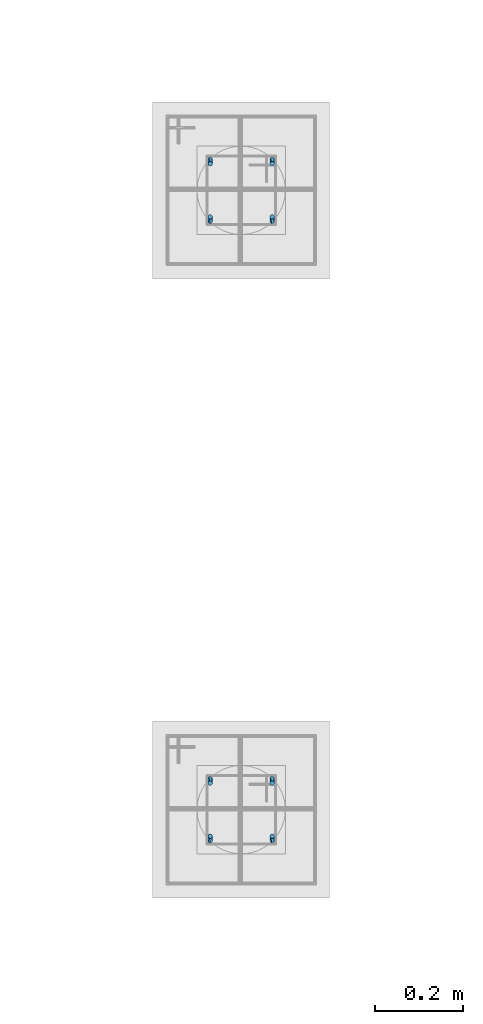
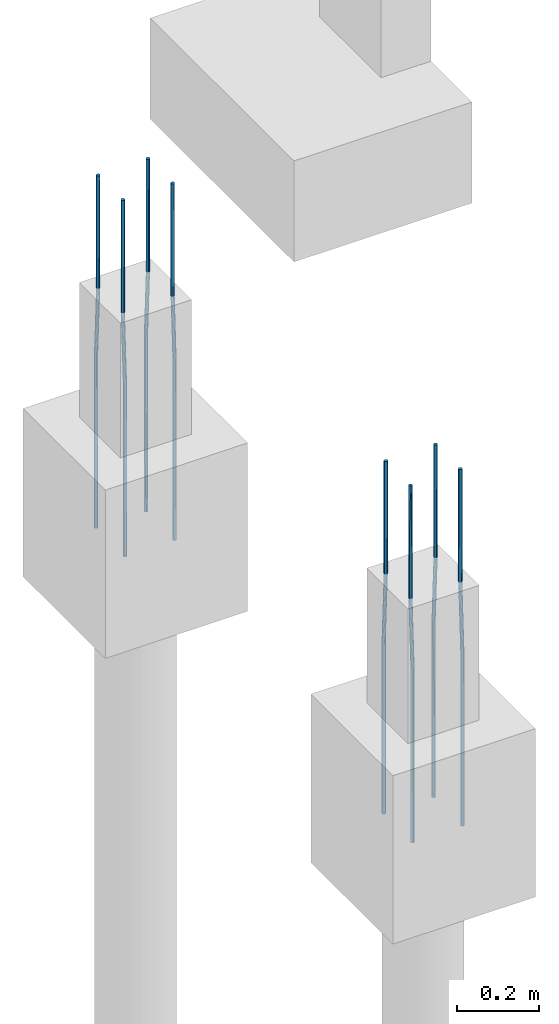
# One storey, part 62 of 119: 8 reinforcing bars.
"""IFC4 building model written with IfcOpenShell, lengths in centimetres."""

from ifc_helpers import new_model, entity, si_unit, derived_unit, frame, origin_with_axes, place, context, project, spatial, element, save


model = new_model("IFC4")

# Units and contexts
model_context = context("Model", 3, precision=1e-05, world=origin_with_axes(), identifier="Body")
ifc_project = project(units=[si_unit("LENGTHUNIT", "METRE", prefix="CENTI"), si_unit("VOLUMEUNIT", "CUBIC_METRE"), si_unit("AREAUNIT", "SQUARE_METRE"), si_unit("POWERUNIT", "WATT"), si_unit("LUMINOUSFLUXUNIT", "LUMEN"), si_unit("ELECTRICCURRENTUNIT", "AMPERE"), si_unit("PRESSUREUNIT", "PASCAL", prefix="KILO"), si_unit("MASSUNIT", "GRAM", prefix="KILO"), si_unit("PLANEANGLEUNIT", "RADIAN"), derived_unit("VOLUMETRICFLOWRATEUNIT", [(si_unit("LENGTHUNIT", "METRE"), 3), (si_unit("TIMEUNIT", "SECOND"), -1)])], contexts=[model_context])

# Site, building, storey
site_placement = place(None, frame((-4000.0, 0.0, 0.0), z_axis=(0.0, 0.0, 1.0), x_axis=(1.0, 0.0, 0.0)))
site = spatial("IfcSite", under=ifc_project, at=site_placement, Name="PADRÃO")
building_placement = place(site_placement, frame((0.0, 0.0, -14.0)))
building = spatial("IfcBuilding", under=site, at=building_placement, Name="CRECHE PRÉ-ESCOLA TIPO 2")
storey_placement = place(building_placement, origin_with_axes())
storey = spatial("IfcBuildingStorey", under=building, at=storey_placement, Name="FUNDAÇÃO", CompositionType="ELEMENT", Elevation=-14.0)

# Reinforcing bars
reinforcing_bar_1_placement = place(storey_placement, frame((3852.84, 3411.52, 33.3573001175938), z_axis=(0.0, 0.0, 1.0), x_axis=(1.0, 0.0, 0.0)))
element("IfcReinforcingBar", 1, at=reinforcing_bar_1_placement, inside=storey, Name="PM1 - Longitudinal", BarLength=0.0, CrossSectionArea=7.853981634e-05, NominalDiameter=1.0, PredefinedType="MAIN", context=model_context, shape_type="AdvancedSweptSolid", body=[
    entity("IfcSweptDiskSolid", entity("IfcCompositeCurve", [entity("IfcCompositeCurveSegment", "CONTINUOUS", True, entity("IfcPolyline", [entity("IfcCartesianPoint", [0.0, 0.5, -105.357300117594]), entity("IfcCartesianPoint", [0.0, 0.5, -53.3573001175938])])), entity("IfcCompositeCurveSegment", "CONTINUOUS", True, entity("IfcPolyline", [entity("IfcCartesianPoint", [0.0, 0.5, -53.3573001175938]), entity("IfcCartesianPoint", [0.0, -0.5, -33.3573001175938])])), entity("IfcCompositeCurveSegment", "CONTINUOUS", True, entity("IfcPolyline", [entity("IfcCartesianPoint", [0.0, -0.5, -33.3573001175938]), entity("IfcCartesianPoint", [0.0, -0.5, 0.0])]))], False), 0.5),
])
for number, where, z_axis, x_axis, name in (
    (2, (3852.84, 3398.52, 33.3573001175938), (0.0, 0.0, 1.0), (1.0, 0.0, 0.0), "PM1 - Longitudinal"),
    (3, (3838.84, 3398.52, 33.3573001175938), (0.0, 0.0, 1.0), (1.0, 0.0, 0.0), "PM1 - Longitudinal"),
):
    element("IfcReinforcingBar", number, at=place(storey_placement, frame(where, z_axis=z_axis, x_axis=x_axis)), inside=storey, Name=name, BarLength=0.0, CrossSectionArea=7.853981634e-05, NominalDiameter=1.0, PredefinedType="MAIN", context=model_context, shape_type="AdvancedSweptSolid", body=[
        entity("IfcSweptDiskSolid", entity("IfcCompositeCurve", [entity("IfcCompositeCurveSegment", "CONTINUOUS", True, entity("IfcPolyline", [entity("IfcCartesianPoint", [0.0, -0.5, -105.357300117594]), entity("IfcCartesianPoint", [0.0, -0.5, -53.3573001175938])])), entity("IfcCompositeCurveSegment", "CONTINUOUS", True, entity("IfcPolyline", [entity("IfcCartesianPoint", [0.0, -0.5, -53.3573001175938]), entity("IfcCartesianPoint", [0.0, 0.5, -33.3573001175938])])), entity("IfcCompositeCurveSegment", "CONTINUOUS", True, entity("IfcPolyline", [entity("IfcCartesianPoint", [0.0, 0.5, -33.3573001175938]), entity("IfcCartesianPoint", [0.0, 0.5, 0.0])]))], False), 0.5),
    ])
reinforcing_bar_2_placement = place(storey_placement, frame((3838.84, 3411.52, 33.3573001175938), z_axis=(0.0, 0.0, 1.0), x_axis=(1.0, 0.0, 0.0)))
element("IfcReinforcingBar", 4, at=reinforcing_bar_2_placement, inside=storey, Name="PM1 - Longitudinal", BarLength=0.0, CrossSectionArea=7.853981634e-05, NominalDiameter=1.0, PredefinedType="MAIN", context=model_context, shape_type="AdvancedSweptSolid", body=[
    entity("IfcSweptDiskSolid", entity("IfcCompositeCurve", [entity("IfcCompositeCurveSegment", "CONTINUOUS", True, entity("IfcPolyline", [entity("IfcCartesianPoint", [0.0, 0.5, -105.357300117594]), entity("IfcCartesianPoint", [0.0, 0.5, -53.3573001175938])])), entity("IfcCompositeCurveSegment", "CONTINUOUS", True, entity("IfcPolyline", [entity("IfcCartesianPoint", [0.0, 0.5, -53.3573001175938]), entity("IfcCartesianPoint", [0.0, -0.5, -33.3573001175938])])), entity("IfcCompositeCurveSegment", "CONTINUOUS", True, entity("IfcPolyline", [entity("IfcCartesianPoint", [0.0, -0.5, -33.3573001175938]), entity("IfcCartesianPoint", [0.0, -0.5, 0.0])]))], False), 0.5),
])
reinforcing_bar_3_placement = place(storey_placement, frame((3852.84, 3258.52, 33.3573001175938), z_axis=(0.0, 0.0, 1.0), x_axis=(1.0, 0.0, 0.0)))
element("IfcReinforcingBar", 5, at=reinforcing_bar_3_placement, inside=storey, Name="PM2 - Longitudinal", BarLength=0.0, CrossSectionArea=7.853981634e-05, NominalDiameter=1.0, PredefinedType="MAIN", context=model_context, shape_type="AdvancedSweptSolid", body=[
    entity("IfcSweptDiskSolid", entity("IfcCompositeCurve", [entity("IfcCompositeCurveSegment", "CONTINUOUS", True, entity("IfcPolyline", [entity("IfcCartesianPoint", [0.0, -0.5, -105.357300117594]), entity("IfcCartesianPoint", [0.0, -0.5, -53.3573001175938])])), entity("IfcCompositeCurveSegment", "CONTINUOUS", True, entity("IfcPolyline", [entity("IfcCartesianPoint", [0.0, -0.5, -53.3573001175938]), entity("IfcCartesianPoint", [0.0, 0.5, -33.3573001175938])])), entity("IfcCompositeCurveSegment", "CONTINUOUS", True, entity("IfcPolyline", [entity("IfcCartesianPoint", [0.0, 0.5, -33.3573001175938]), entity("IfcCartesianPoint", [0.0, 0.5, 0.0])]))], False), 0.5),
])
reinforcing_bar_4_placement = place(storey_placement, frame((3852.84, 3271.52, 33.3573001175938), z_axis=(0.0, 0.0, 1.0), x_axis=(1.0, 0.0, 0.0)))
element("IfcReinforcingBar", 6, at=reinforcing_bar_4_placement, inside=storey, Name="PM2 - Longitudinal", BarLength=0.0, CrossSectionArea=7.853981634e-05, NominalDiameter=1.0, PredefinedType="MAIN", context=model_context, shape_type="AdvancedSweptSolid", body=[
    entity("IfcSweptDiskSolid", entity("IfcCompositeCurve", [entity("IfcCompositeCurveSegment", "CONTINUOUS", True, entity("IfcPolyline", [entity("IfcCartesianPoint", [0.0, 0.5, -105.357300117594]), entity("IfcCartesianPoint", [0.0, 0.5, -53.3573001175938])])), entity("IfcCompositeCurveSegment", "CONTINUOUS", True, entity("IfcPolyline", [entity("IfcCartesianPoint", [0.0, 0.5, -53.3573001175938]), entity("IfcCartesianPoint", [0.0, -0.5, -33.3573001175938])])), entity("IfcCompositeCurveSegment", "CONTINUOUS", True, entity("IfcPolyline", [entity("IfcCartesianPoint", [0.0, -0.5, -33.3573001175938]), entity("IfcCartesianPoint", [0.0, -0.5, 0.0])]))], False), 0.5),
])
reinforcing_bar_5_placement = place(storey_placement, frame((3838.84, 3258.52, 33.3573001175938), z_axis=(0.0, 0.0, 1.0), x_axis=(1.0, 0.0, 0.0)))
element("IfcReinforcingBar", 7, at=reinforcing_bar_5_placement, inside=storey, Name="PM2 - Longitudinal", BarLength=0.0, CrossSectionArea=7.853981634e-05, NominalDiameter=1.0, PredefinedType="MAIN", context=model_context, shape_type="AdvancedSweptSolid", body=[
    entity("IfcSweptDiskSolid", entity("IfcCompositeCurve", [entity("IfcCompositeCurveSegment", "CONTINUOUS", True, entity("IfcPolyline", [entity("IfcCartesianPoint", [0.0, -0.5, -105.357300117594]), entity("IfcCartesianPoint", [0.0, -0.5, -53.3573001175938])])), entity("IfcCompositeCurveSegment", "CONTINUOUS", True, entity("IfcPolyline", [entity("IfcCartesianPoint", [0.0, -0.5, -53.3573001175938]), entity("IfcCartesianPoint", [0.0, 0.5, -33.3573001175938])])), entity("IfcCompositeCurveSegment", "CONTINUOUS", True, entity("IfcPolyline", [entity("IfcCartesianPoint", [0.0, 0.5, -33.3573001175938]), entity("IfcCartesianPoint", [0.0, 0.5, 0.0])]))], False), 0.5),
])
reinforcing_bar_6_placement = place(storey_placement, frame((3838.84, 3271.52, 33.3573001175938), z_axis=(0.0, 0.0, 1.0), x_axis=(1.0, 0.0, 0.0)))
element("IfcReinforcingBar", 8, at=reinforcing_bar_6_placement, inside=storey, Name="PM2 - Longitudinal", BarLength=0.0, CrossSectionArea=7.853981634e-05, NominalDiameter=1.0, PredefinedType="MAIN", context=model_context, shape_type="AdvancedSweptSolid", body=[
    entity("IfcSweptDiskSolid", entity("IfcCompositeCurve", [entity("IfcCompositeCurveSegment", "CONTINUOUS", True, entity("IfcPolyline", [entity("IfcCartesianPoint", [0.0, 0.5, -105.357300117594]), entity("IfcCartesianPoint", [0.0, 0.5, -53.3573001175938])])), entity("IfcCompositeCurveSegment", "CONTINUOUS", True, entity("IfcPolyline", [entity("IfcCartesianPoint", [0.0, 0.5, -53.3573001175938]), entity("IfcCartesianPoint", [0.0, -0.5, -33.3573001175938])])), entity("IfcCompositeCurveSegment", "CONTINUOUS", True, entity("IfcPolyline", [entity("IfcCartesianPoint", [0.0, -0.5, -33.3573001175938]), entity("IfcCartesianPoint", [0.0, -0.5, 0.0])]))], False), 0.5),
])

save(model, "model.ifc")
